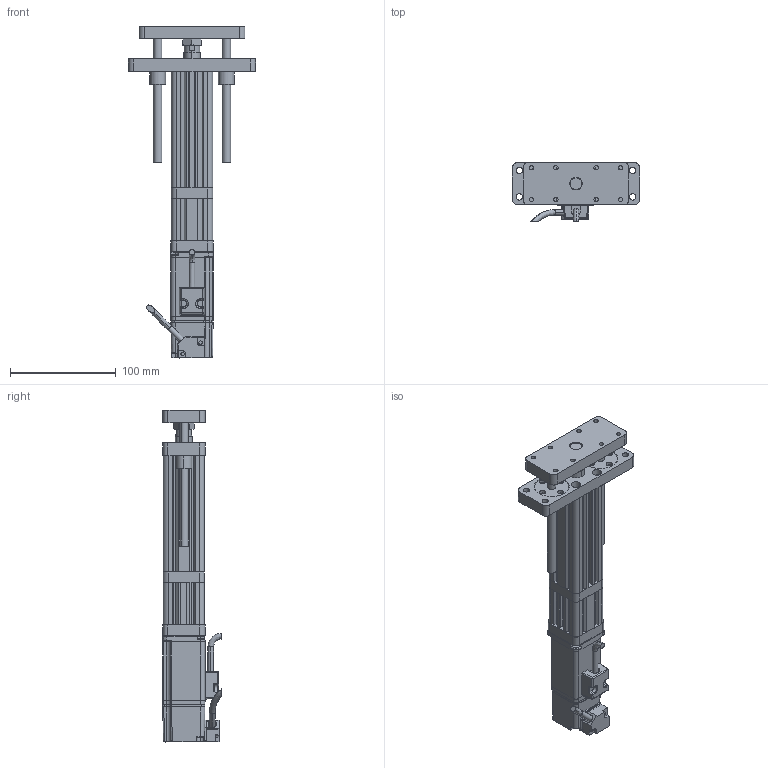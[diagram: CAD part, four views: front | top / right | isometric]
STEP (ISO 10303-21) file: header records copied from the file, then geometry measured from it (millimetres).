
FILE_DESCRIPTION (( 'STEP AP214' ), '1' );
FILE_NAME ('039-S50-D02-A-M3-C5-2.STEP', '2021-03-02T05:45:07', ( '' ), ( '' ), 'SwSTEP 2.0', 'SolidWorks 2018', '' );
FILE_SCHEMA (( 'AUTOMOTIVE_DESIGN' ));
Length unit declared in the file: millimetre
Products named in the file (12): GB／T6172．1-2000六角薄螺母A级和B级M12; CMC039-DB; CMC039-AZB; LME01-d8; CMC039-DT; CMC039-ZLLJB; CMC039-FL; ECMA-CX0401ES-40框號系列機種-100W低慣量系列; CMC039-DJZ; 039-S50-D02-A-M3-C5-2; CMC039-DZ; CMC039-GT
Assembly tree (13 placements, depth 2):
  039-S50-D02-A-M3-C5-2
    CMC039-GT
    CMC039-FL
    CMC039-DT
    LME01-d8  x2
    CMC039-DB
    GB／T6172．1-2000六角薄螺母A级和B级M12
    CMC039-DZ  x2
    CMC039-AZB
    CMC039-DJZ
    CMC039-ZLLJB
    ECMA-CX0401ES-40框號系列機種-100W低慣量系列
Bounding box: 120 x 55.39 x 313.6 mm (x, y, z)
Volume: 442323 mm3; surface area: 136512.8 mm2
Topology: 13 solids, 21 shells, 867 faces, 2244 edges, 1415 vertices
Faces by surface type: cylinder 384, plane 328, bspline 88, cone 67
Entity records: 32022 total; most frequent: CARTESIAN_POINT 11934, ORIENTED_EDGE 4230, DIRECTION 3647, EDGE_CURVE 2115, VERTEX_POINT 1356, AXIS2_PLACEMENT_3D 1292, VECTOR 1063, LINE 1063
